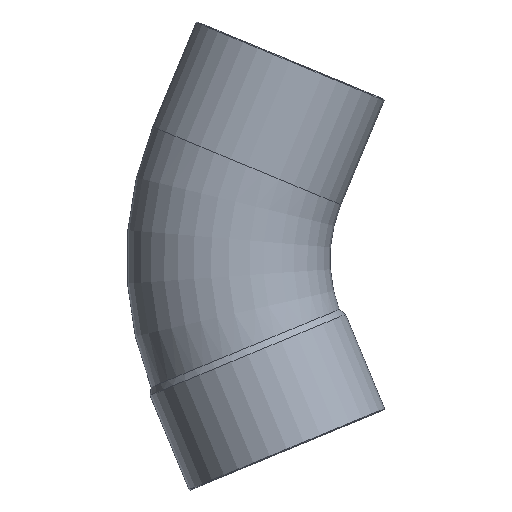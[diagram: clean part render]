
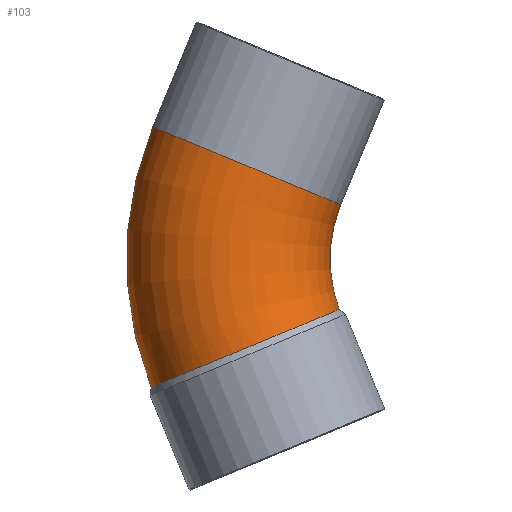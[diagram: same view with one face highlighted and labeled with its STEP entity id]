
A CAD part, front view. The second image highlights one B-rep face of the part: STEP entity #103.
In plain terms, the highlighted toroidal (fillet/blend) face has major radius 84 mm and minor radius 35 mm.
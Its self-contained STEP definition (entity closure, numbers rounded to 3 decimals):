
#44=CARTESIAN_POINT('',(4.435,0.,0.));
#45=DIRECTION('',(0.,1.0,0.));
#46=DIRECTION('',(-0.383,0.,0.924));
#47=AXIS2_PLACEMENT_3D('',#44,#45,#46);
#48=TOROIDAL_SURFACE('',#47,84.0,35.0);
#49=CARTESIAN_POINT('',(-106.114,0.,-44.045));
#50=VERTEX_POINT('',#49);
#51=CARTESIAN_POINT('',(-105.507,0.,45.539));
#52=VERTEX_POINT('',#51);
#53=CARTESIAN_POINT('',(4.435,0.,0.));
#54=DIRECTION('',(0.0,1.0,0.0));
#55=DIRECTION('',(0.0,0.0,1.0));
#56=AXIS2_PLACEMENT_3D('',#53,#54,#55);
#57=CIRCLE('',#56,119.0);
#58=EDGE_CURVE('',#50,#52,#57,.T.);
#59=ORIENTED_EDGE('',*,*,#58,.F.);
#60=CARTESIAN_POINT('',(-41.406,0.,-17.309));
#61=VERTEX_POINT('',#60);
#62=CARTESIAN_POINT('',(-106.114,0.,-44.045));
#63=CARTESIAN_POINT('',(-106.114,-2.58,-44.045));
#64=CARTESIAN_POINT('',(-105.85,-5.153,-43.936));
#65=CARTESIAN_POINT('',(-104.805,-10.188,-43.504));
#66=CARTESIAN_POINT('',(-104.027,-12.635,-43.182));
#67=CARTESIAN_POINT('',(-101.206,-19.087,-42.015));
#68=CARTESIAN_POINT('',(-98.679,-22.787,-40.969));
#69=CARTESIAN_POINT('',(-92.455,-28.93,-38.394));
#70=CARTESIAN_POINT('',(-88.818,-31.314,-36.89));
#71=CARTESIAN_POINT('',(-80.904,-34.441,-33.617));
#72=CARTESIAN_POINT('',(-76.701,-35.153,-31.88));
#73=CARTESIAN_POINT('',(-68.281,-34.793,-28.4));
#74=CARTESIAN_POINT('',(-64.143,-33.725,-26.69));
#75=CARTESIAN_POINT('',(-56.478,-29.933,-23.525));
#76=CARTESIAN_POINT('',(-53.025,-27.246,-22.099));
#77=CARTESIAN_POINT('',(-47.265,-20.592,-19.723));
#78=CARTESIAN_POINT('',(-45.014,-16.69,-18.795));
#79=CARTESIAN_POINT('',(-42.121,-8.457,-17.603));
#80=CARTESIAN_POINT('',(-41.406,-4.245,-17.309));
#81=CARTESIAN_POINT('',(-41.406,0.,-17.309));
#82=B_SPLINE_CURVE_WITH_KNOTS('',3,(#62,#63,#64,#65,#66,#67,#68,#69,#70,#71,#72,#73,#74,#75,#76,#77,#78,#79,#80,#81),.UNSPECIFIED.,.F.,.U.,(4,2,2,2,2,2,2,2,2,4),(-22.059,-21.285,-20.511,-19.144,-17.776,-16.408,-15.041,-13.673,-12.306,-11.031),.UNSPECIFIED.);
#83=EDGE_CURVE('',#50,#61,#82,.T.);
#84=ORIENTED_EDGE('',*,*,#83,.T.);
#85=CARTESIAN_POINT('',(-40.835,0.,18.751));
#86=VERTEX_POINT('',#85);
#87=CARTESIAN_POINT('',(4.435,0.,0.));
#88=DIRECTION('',(0.0,-1.0,0.0));
#89=DIRECTION('',(0.0,0.0,1.0));
#90=AXIS2_PLACEMENT_3D('',#87,#88,#89);
#91=CIRCLE('',#90,49.0);
#92=EDGE_CURVE('',#86,#61,#91,.T.);
#93=ORIENTED_EDGE('',*,*,#92,.F.);
#94=CARTESIAN_POINT('',(-73.171,0.,32.145));
#95=DIRECTION('',(-0.383,0.,-0.924));
#96=DIRECTION('',(-0.924,0.,0.383));
#97=AXIS2_PLACEMENT_3D('',#94,#95,#96);
#98=CIRCLE('',#97,35.);
#99=EDGE_CURVE('',#86,#52,#98,.T.);
#100=ORIENTED_EDGE('',*,*,#99,.T.);
#101=EDGE_LOOP('',(#59,#84,#93,#100));
#102=FACE_OUTER_BOUND('',#101,.T.);
#103=ADVANCED_FACE('',(#102),#48,.T.);
